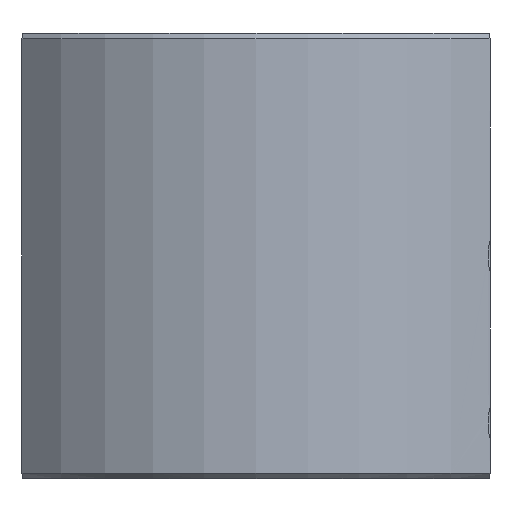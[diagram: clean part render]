
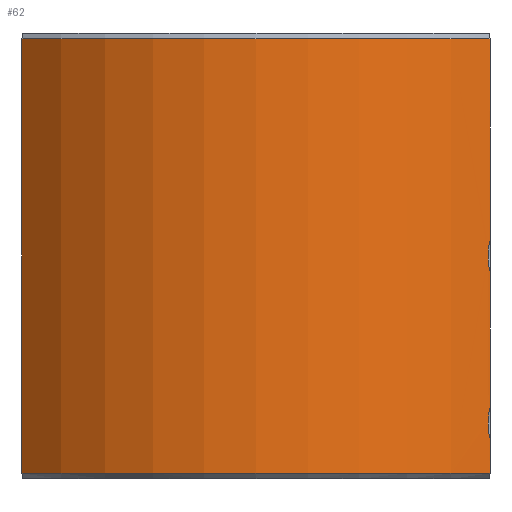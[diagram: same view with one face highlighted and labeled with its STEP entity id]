
A CAD part, left-side view. The second image highlights one B-rep face of the part: STEP entity #62.
In plain terms, the highlighted cylindrical face has radius 29 mm (diameter 58 mm), a partial arc.
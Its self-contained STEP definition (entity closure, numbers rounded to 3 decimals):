
#62=ADVANCED_FACE('',(#447),#449,.T.);
#447=FACE_BOUND('',#448,.T.);
#448=EDGE_LOOP('',(#813,#814,#815,#816,#817,#818,#819,#820));
#449=CYLINDRICAL_SURFACE('',#450,29.);
#450=AXIS2_PLACEMENT_3D('',#451,#452,#453);
#451=CARTESIAN_POINT('',(0.,0.,-20.));
#452=DIRECTION('',(0.,0.,1.));
#453=DIRECTION('',(-0.69,0.724,0.));
#813=ORIENTED_EDGE('',*,*,#953,.T.);
#814=ORIENTED_EDGE('',*,*,#954,.T.);
#815=ORIENTED_EDGE('',*,*,#955,.T.);
#816=ORIENTED_EDGE('',*,*,#956,.T.);
#817=ORIENTED_EDGE('',*,*,#957,.F.);
#818=ORIENTED_EDGE('',*,*,#958,.F.);
#819=ORIENTED_EDGE('',*,*,#959,.T.);
#820=ORIENTED_EDGE('',*,*,#960,.T.);
#953=EDGE_CURVE('',#1033,#1034,#1035,.F.);
#954=EDGE_CURVE('',#1034,#1036,#1037,.T.);
#955=EDGE_CURVE('',#1036,#1038,#1039,.F.);
#956=EDGE_CURVE('',#1038,#1040,#1041,.T.);
#957=EDGE_CURVE('',#1042,#1040,#1043,.T.);
#958=EDGE_CURVE('',#1044,#1042,#1045,.T.);
#959=EDGE_CURVE('',#1044,#1046,#1047,.T.);
#960=EDGE_CURVE('',#1046,#1033,#1048,.T.);
#1033=VERTEX_POINT('',#1255);
#1034=VERTEX_POINT('',#1256);
#1035=B_SPLINE_CURVE_WITH_KNOTS('',3,
(#1257,#1258,#1259,#1260,#1261,#1262,#1263,#1264,#1265,#1266,#1267,#1268,#1269,#1270,
#1271,#1272,#1273,#1274,#1275,#1276,#1277,#1278,#1279,#1280,#1281,#1282,#1283,#1284,
#1285,#1286,#1287,#1288,#1289,#1290,#1291,#1292,#1293,#1294,#1295,#1296,#1297,#1298),
.UNSPECIFIED.,.F.,.F.,
(4,1,1,1,1,1,1,1,1,1,1,1,1,1,1,1,1,1,1,1,1,1,1,1,1,1,1,1,1,1,1,1,1,1,1,1,1,1,1,4),
(0.,0.026,0.051,0.078,0.104,0.13,
0.167,0.203,0.24,0.268,0.297,
0.326,0.355,0.384,0.414,0.444,
0.473,0.5,0.503,0.532,0.561,
0.589,0.617,0.645,0.671,0.698,
0.723,0.748,0.772,0.795,0.817,
0.838,0.865,0.89,0.915,0.933,
0.95,0.967,0.984,1.),
.UNSPECIFIED.);
#1036=VERTEX_POINT('',#1299);
#1037=LINE('',#1300,#1301);
#1038=VERTEX_POINT('',#1303);
#1039=B_SPLINE_CURVE_WITH_KNOTS('',3,
(#1304,#1305,#1306,#1307,#1308,#1309,#1310,#1311,#1312,#1313,#1314,#1315,#1316,#1317,
#1318,#1319,#1320,#1321,#1322),
.UNSPECIFIED.,.F.,.F.,
(4,1,1,1,1,1,1,1,1,1,1,1,1,1,1,1,4),
(0.,0.022,0.048,0.076,0.114,0.161,
0.252,0.362,0.491,0.5,0.596,
0.699,0.788,0.866,0.922,0.967,
1.),
.UNSPECIFIED.);
#1040=VERTEX_POINT('',#1323);
#1041=LINE('',#1324,#1325);
#1042=VERTEX_POINT('',#1327);
#1043=CIRCLE('',#1328,29.);
#1044=VERTEX_POINT('',#1332);
#1045=LINE('',#1333,#1334);
#1046=VERTEX_POINT('',#1336);
#1047=CIRCLE('',#1337,29.);
#1048=LINE('',#1341,#1342);
#1255=CARTESIAN_POINT('',(-20.,-21.,-16.403));
#1256=CARTESIAN_POINT('',(-20.,-21.,-13.597));
#1257=CARTESIAN_POINT('',(-20.,-21.,-13.597));
#1258=CARTESIAN_POINT('',(-20.006,-20.994,-13.62));
#1259=CARTESIAN_POINT('',(-20.018,-20.983,-13.666));
#1260=CARTESIAN_POINT('',(-20.036,-20.966,-13.736));
#1261=CARTESIAN_POINT('',(-20.052,-20.95,-13.807));
#1262=CARTESIAN_POINT('',(-20.068,-20.935,-13.88));
#1263=CARTESIAN_POINT('',(-20.085,-20.919,-13.962));
#1264=CARTESIAN_POINT('',(-20.103,-20.902,-14.053));
#1265=CARTESIAN_POINT('',(-20.12,-20.885,-14.155));
#1266=CARTESIAN_POINT('',(-20.134,-20.871,-14.251));
#1267=CARTESIAN_POINT('',(-20.146,-20.86,-14.339));
#1268=CARTESIAN_POINT('',(-20.156,-20.851,-14.42));
#1269=CARTESIAN_POINT('',(-20.164,-20.843,-14.502));
#1270=CARTESIAN_POINT('',(-20.171,-20.836,-14.585));
#1271=CARTESIAN_POINT('',(-20.177,-20.83,-14.669));
#1272=CARTESIAN_POINT('',(-20.182,-20.826,-14.754));
#1273=CARTESIAN_POINT('',(-20.185,-20.822,-14.839));
#1274=CARTESIAN_POINT('',(-20.187,-20.821,-14.921));
#1275=CARTESIAN_POINT('',(-20.187,-20.82,-14.977));
#1276=CARTESIAN_POINT('',(-20.187,-20.82,-15.033));
#1277=CARTESIAN_POINT('',(-20.187,-20.821,-15.092));
#1278=CARTESIAN_POINT('',(-20.184,-20.823,-15.174));
#1279=CARTESIAN_POINT('',(-20.181,-20.826,-15.256));
#1280=CARTESIAN_POINT('',(-20.177,-20.83,-15.336));
#1281=CARTESIAN_POINT('',(-20.171,-20.836,-15.414));
#1282=CARTESIAN_POINT('',(-20.165,-20.842,-15.49));
#1283=CARTESIAN_POINT('',(-20.157,-20.849,-15.565));
#1284=CARTESIAN_POINT('',(-20.149,-20.857,-15.638));
#1285=CARTESIAN_POINT('',(-20.14,-20.866,-15.707));
#1286=CARTESIAN_POINT('',(-20.13,-20.875,-15.775));
#1287=CARTESIAN_POINT('',(-20.121,-20.884,-15.839));
#1288=CARTESIAN_POINT('',(-20.11,-20.894,-15.901));
#1289=CARTESIAN_POINT('',(-20.099,-20.905,-15.965));
#1290=CARTESIAN_POINT('',(-20.086,-20.918,-16.033));
#1291=CARTESIAN_POINT('',(-20.072,-20.932,-16.104));
#1292=CARTESIAN_POINT('',(-20.058,-20.945,-16.167));
#1293=CARTESIAN_POINT('',(-20.046,-20.956,-16.222));
#1294=CARTESIAN_POINT('',(-20.034,-20.967,-16.269));
#1295=CARTESIAN_POINT('',(-20.023,-20.978,-16.315));
#1296=CARTESIAN_POINT('',(-20.012,-20.989,-16.359));
#1297=CARTESIAN_POINT('',(-20.004,-20.996,-16.389));
#1298=CARTESIAN_POINT('',(-20.,-21.,-16.403));
#1299=CARTESIAN_POINT('',(-20.,-21.,-1.403));
#1300=CARTESIAN_POINT('',(-20.,-21.,-13.597));
#1301=VECTOR('',#1302,1.);
#1302=DIRECTION('',(0.,0.,1.));
#1303=CARTESIAN_POINT('',(-20.,-21.,1.403));
#1304=CARTESIAN_POINT('',(-20.,-21.,1.403));
#1305=CARTESIAN_POINT('',(-20.005,-20.995,1.383));
#1306=CARTESIAN_POINT('',(-20.017,-20.984,1.341));
#1307=CARTESIAN_POINT('',(-20.034,-20.968,1.272));
#1308=CARTESIAN_POINT('',(-20.053,-20.949,1.188));
#1309=CARTESIAN_POINT('',(-20.076,-20.927,1.085));
#1310=CARTESIAN_POINT('',(-20.108,-20.897,0.922));
#1311=CARTESIAN_POINT('',(-20.145,-20.861,0.69));
#1312=CARTESIAN_POINT('',(-20.177,-20.83,0.377));
#1313=CARTESIAN_POINT('',(-20.187,-20.82,0.141));
#1314=CARTESIAN_POINT('',(-20.187,-20.82,-0.083));
#1315=CARTESIAN_POINT('',(-20.182,-20.825,-0.282));
#1316=CARTESIAN_POINT('',(-20.16,-20.846,-0.557));
#1317=CARTESIAN_POINT('',(-20.127,-20.879,-0.811));
#1318=CARTESIAN_POINT('',(-20.09,-20.914,-1.018));
#1319=CARTESIAN_POINT('',(-20.055,-20.947,-1.182));
#1320=CARTESIAN_POINT('',(-20.026,-20.975,-1.303));
#1321=CARTESIAN_POINT('',(-20.008,-20.992,-1.373));
#1322=CARTESIAN_POINT('',(-20.,-21.,-1.403));
#1323=CARTESIAN_POINT('',(-20.,-21.,19.5));
#1324=CARTESIAN_POINT('',(-20.,-21.,1.403));
#1325=VECTOR('',#1326,1.);
#1326=DIRECTION('',(0.,0.,1.));
#1327=CARTESIAN_POINT('',(-20.,21.,19.5));
#1328=AXIS2_PLACEMENT_3D('',#1329,#1330,#1331);
#1329=CARTESIAN_POINT('',(0.,0.,19.5));
#1330=DIRECTION('',(0.,0.,1.));
#1331=DIRECTION('',(-0.69,0.724,0.));
#1332=CARTESIAN_POINT('',(-20.,21.,-19.5));
#1333=CARTESIAN_POINT('',(-20.,21.,-19.5));
#1334=VECTOR('',#1335,1.);
#1335=DIRECTION('',(0.,0.,1.));
#1336=CARTESIAN_POINT('',(-20.,-21.,-19.5));
#1337=AXIS2_PLACEMENT_3D('',#1338,#1339,#1340);
#1338=CARTESIAN_POINT('',(0.,0.,-19.5));
#1339=DIRECTION('',(0.,0.,1.));
#1340=DIRECTION('',(-0.69,0.724,0.));
#1341=CARTESIAN_POINT('',(-20.,-21.,-19.5));
#1342=VECTOR('',#1343,1.);
#1343=DIRECTION('',(0.,0.,1.));
